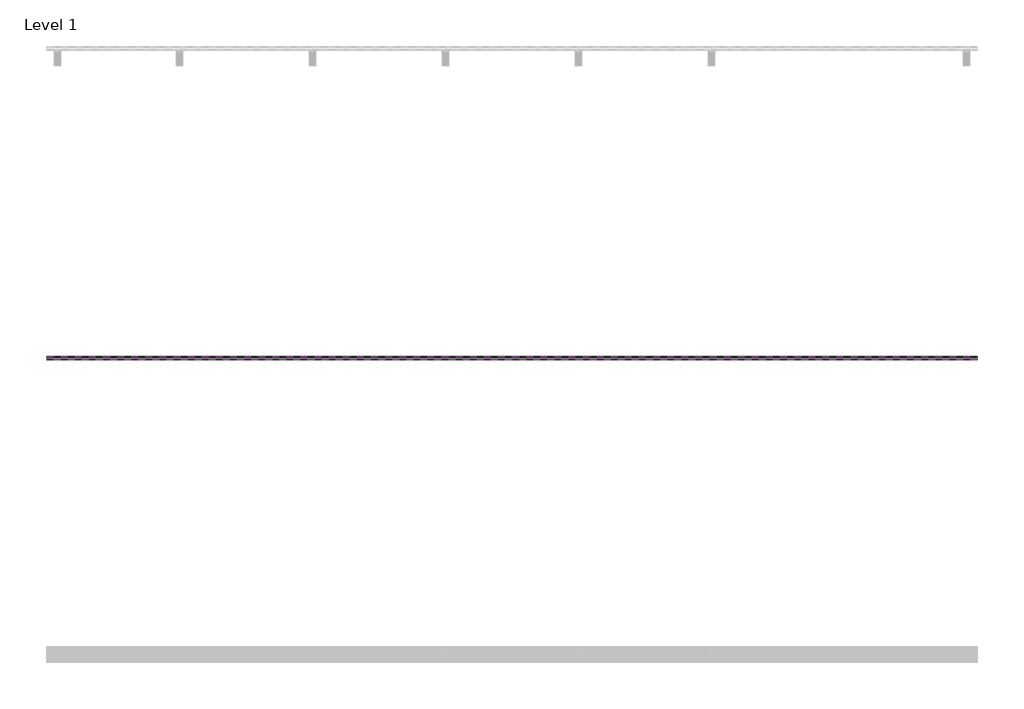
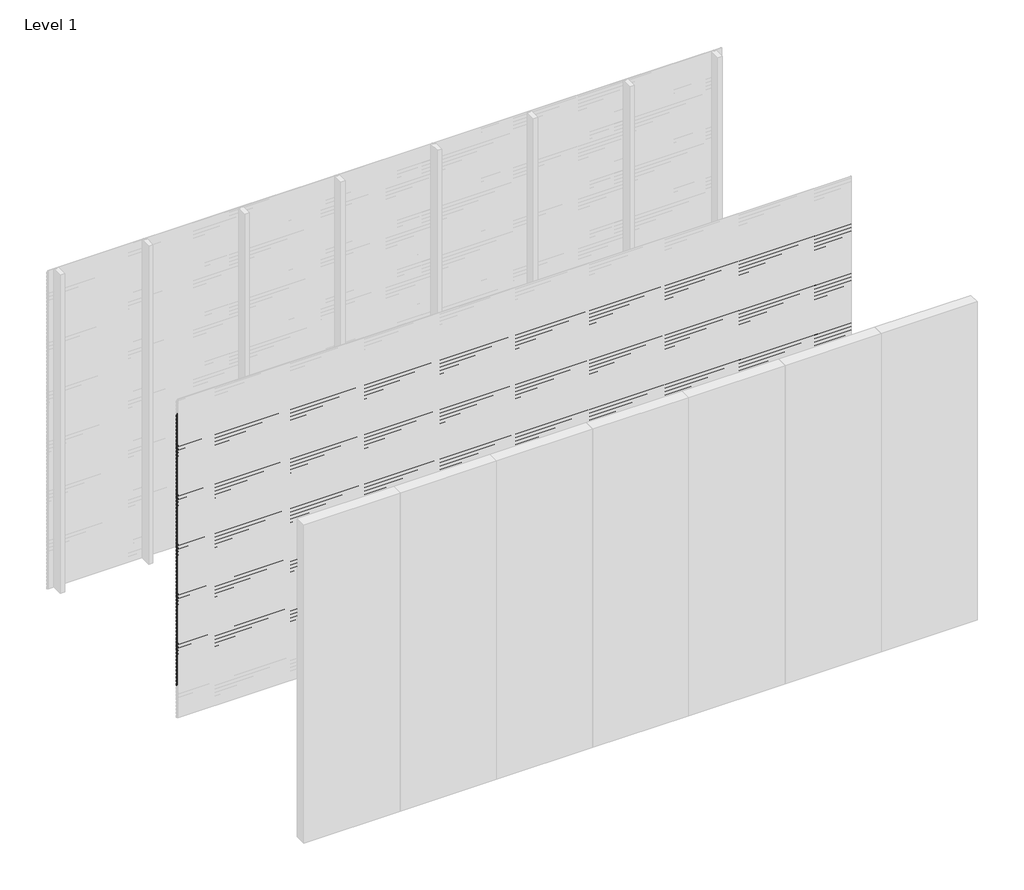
# One storey, part 32 of 96: 77 proxies.
"""IFC4 building model written with IfcOpenShell, lengths in millimetres."""

from ifc_helpers import new_model, si_unit, frame, origin, place, context, project, spatial, polyline, outline, extrude, element, save

model = new_model("IFC4")

# Units and contexts
model_context = context("Model", 3, world=origin())
ifc_project = project(units=[si_unit("LENGTHUNIT", "METRE", prefix="MILLI")], contexts=[model_context])

# Site, building, storey
site = spatial("IfcSite", under=ifc_project)
building = spatial("IfcBuilding", under=site)
storey = spatial("IfcBuildingStorey", under=building, Name="Level 1", Elevation=0.0)

# Proxies
placement = place(None, origin())
element("IfcBuildingElementProxy", 1, Name="Wall Sweeps", at=placement, inside=storey, context=model_context, shape_type="SweptSolid", body=[
    extrude(outline(polyline([(-37977.6, 2838.5655033), (-37977.6, 2824.2779188), (-37982.4114965, 2821.5), (-37982.4114965, 2822.7701706), (-37978.85, 2824.8264016), (-37978.85, 2837.8437382), (-37998.0, 2848.9000799), (-37998.0, 2863.8), (-37996.75, 2863.8), (-37996.75, 2849.6217609), (-37977.6, 2838.5655033)])), frame((0.0, 0.0, 0.0), z_axis=(1.0, 0.0, 0.0), x_axis=(0.0, 1.0, 0.0)), (0.0, 0.0, 1.0), 6000.0),
])
element("IfcBuildingElementProxy", 2, Name="Wall Sweeps", at=placement, inside=storey, context=model_context, shape_type="SweptSolid", body=[
    extrude(outline(polyline([(-37977.6, 2805.2655033), (-37977.6, 2790.9779188), (-37982.4114965, 2788.2), (-37982.4114965, 2789.4701706), (-37978.85, 2791.5264016), (-37978.85, 2804.5437382), (-37998.0, 2815.6000799), (-37998.0, 2830.5), (-37996.75, 2830.5), (-37996.75, 2816.3217609), (-37977.6, 2805.2655033)])), frame((0.0, 0.0, 0.0), z_axis=(1.0, 0.0, 0.0), x_axis=(0.0, 1.0, 0.0)), (0.0, 0.0, 1.0), 6000.0),
])
element("IfcBuildingElementProxy", 3, Name="Wall Sweeps", at=placement, inside=storey, context=model_context, shape_type="SweptSolid", body=[
    extrude(outline(polyline([(-37977.6, 2771.9655033), (-37977.6, 2757.6779188), (-37982.4114965, 2754.9), (-37982.4114965, 2756.1701706), (-37978.85, 2758.2264016), (-37978.85, 2771.2437382), (-37998.0, 2782.3000799), (-37998.0, 2797.2), (-37996.75, 2797.2), (-37996.75, 2783.0217609), (-37977.6, 2771.9655033)])), frame((0.0, 0.0, 0.0), z_axis=(1.0, 0.0, 0.0), x_axis=(0.0, 1.0, 0.0)), (0.0, 0.0, 1.0), 6000.0),
])
element("IfcBuildingElementProxy", 4, Name="Wall Sweeps", at=placement, inside=storey, context=model_context, shape_type="SweptSolid", body=[
    extrude(outline(polyline([(-37977.6, 2738.6655033), (-37977.6, 2724.3779188), (-37982.4114965, 2721.6), (-37982.4114965, 2722.8701706), (-37978.85, 2724.9264016), (-37978.85, 2737.9437382), (-37998.0, 2749.0000799), (-37998.0, 2763.9), (-37996.75, 2763.9), (-37996.75, 2749.7217609), (-37977.6, 2738.6655033)])), frame((0.0, 0.0, 0.0), z_axis=(1.0, 0.0, 0.0), x_axis=(0.0, 1.0, 0.0)), (0.0, 0.0, 1.0), 6000.0),
])
element("IfcBuildingElementProxy", 5, Name="Wall Sweeps", at=placement, inside=storey, context=model_context, shape_type="SweptSolid", body=[
    extrude(outline(polyline([(-37977.6, 2705.3655033), (-37977.6, 2691.0779188), (-37982.4114965, 2688.3), (-37982.4114965, 2689.5701706), (-37978.85, 2691.6264016), (-37978.85, 2704.6437382), (-37998.0, 2715.7000799), (-37998.0, 2730.6), (-37996.75, 2730.6), (-37996.75, 2716.4217609), (-37977.6, 2705.3655033)])), frame((0.0, 0.0, 0.0), z_axis=(1.0, 0.0, 0.0), x_axis=(0.0, 1.0, 0.0)), (0.0, 0.0, 1.0), 6000.0),
])
element("IfcBuildingElementProxy", 6, Name="Wall Sweeps", at=placement, inside=storey, context=model_context, shape_type="SweptSolid", body=[
    extrude(outline(polyline([(-37977.6, 2672.0655033), (-37977.6, 2657.7779188), (-37982.4114965, 2655.0), (-37982.4114965, 2656.2701706), (-37978.85, 2658.3264016), (-37978.85, 2671.3437382), (-37998.0, 2682.4000799), (-37998.0, 2697.3), (-37996.75, 2697.3), (-37996.75, 2683.1217609), (-37977.6, 2672.0655033)])), frame((0.0, 0.0, 0.0), z_axis=(1.0, 0.0, 0.0), x_axis=(0.0, 1.0, 0.0)), (0.0, 0.0, 1.0), 6000.0),
])
element("IfcBuildingElementProxy", 7, Name="Wall Sweeps", at=placement, inside=storey, context=model_context, shape_type="SweptSolid", body=[
    extrude(outline(polyline([(-37977.6, 2638.7655033), (-37977.6, 2624.4779188), (-37982.4114965, 2621.7), (-37982.4114965, 2622.9701706), (-37978.85, 2625.0264016), (-37978.85, 2638.0437382), (-37998.0, 2649.1000799), (-37998.0, 2664.0), (-37996.75, 2664.0), (-37996.75, 2649.8217609), (-37977.6, 2638.7655033)])), frame((0.0, 0.0, 0.0), z_axis=(1.0, 0.0, 0.0), x_axis=(0.0, 1.0, 0.0)), (0.0, 0.0, 1.0), 6000.0),
])
element("IfcBuildingElementProxy", 8, Name="Wall Sweeps", at=placement, inside=storey, context=model_context, shape_type="SweptSolid", body=[
    extrude(outline(polyline([(-37977.6, 2605.4655033), (-37977.6, 2591.1779188), (-37982.4114965, 2588.4), (-37982.4114965, 2589.6701706), (-37978.85, 2591.7264016), (-37978.85, 2604.7437382), (-37998.0, 2615.8000799), (-37998.0, 2630.7), (-37996.75, 2630.7), (-37996.75, 2616.5217609), (-37977.6, 2605.4655033)])), frame((0.0, 0.0, 0.0), z_axis=(1.0, 0.0, 0.0), x_axis=(0.0, 1.0, 0.0)), (0.0, 0.0, 1.0), 6000.0),
])
element("IfcBuildingElementProxy", 9, Name="Wall Sweeps", at=placement, inside=storey, context=model_context, shape_type="SweptSolid", body=[
    extrude(outline(polyline([(-37977.6, 2572.1655033), (-37977.6, 2557.8779188), (-37982.4114965, 2555.1), (-37982.4114965, 2556.3701706), (-37978.85, 2558.4264016), (-37978.85, 2571.4437382), (-37998.0, 2582.5000799), (-37998.0, 2597.4), (-37996.75, 2597.4), (-37996.75, 2583.2217609), (-37977.6, 2572.1655033)])), frame((0.0, 0.0, 0.0), z_axis=(1.0, 0.0, 0.0), x_axis=(0.0, 1.0, 0.0)), (0.0, 0.0, 1.0), 6000.0),
])
element("IfcBuildingElementProxy", 10, Name="Wall Sweeps", at=placement, inside=storey, context=model_context, shape_type="SweptSolid", body=[
    extrude(outline(polyline([(-37977.6, 2538.8655033), (-37977.6, 2524.5779188), (-37982.4114965, 2521.8), (-37982.4114965, 2523.0701706), (-37978.85, 2525.1264016), (-37978.85, 2538.1437382), (-37998.0, 2549.2000799), (-37998.0, 2564.1), (-37996.75, 2564.1), (-37996.75, 2549.9217609), (-37977.6, 2538.8655033)])), frame((0.0, 0.0, 0.0), z_axis=(1.0, 0.0, 0.0), x_axis=(0.0, 1.0, 0.0)), (0.0, 0.0, 1.0), 6000.0),
])
element("IfcBuildingElementProxy", 11, Name="Wall Sweeps", at=placement, inside=storey, context=model_context, shape_type="SweptSolid", body=[
    extrude(outline(polyline([(-37977.6, 2505.5655033), (-37977.6, 2491.2779188), (-37982.4114965, 2488.5), (-37982.4114965, 2489.7701706), (-37978.85, 2491.8264016), (-37978.85, 2504.8437382), (-37998.0, 2515.9000799), (-37998.0, 2530.8), (-37996.75, 2530.8), (-37996.75, 2516.6217609), (-37977.6, 2505.5655033)])), frame((0.0, 0.0, 0.0), z_axis=(1.0, 0.0, 0.0), x_axis=(0.0, 1.0, 0.0)), (0.0, 0.0, 1.0), 6000.0),
])
element("IfcBuildingElementProxy", 12, Name="Wall Sweeps", at=placement, inside=storey, context=model_context, shape_type="SweptSolid", body=[
    extrude(outline(polyline([(-37977.6, 2472.2655033), (-37977.6, 2457.9779188), (-37982.4114965, 2455.2), (-37982.4114965, 2456.4701706), (-37978.85, 2458.5264016), (-37978.85, 2471.5437382), (-37998.0, 2482.6000799), (-37998.0, 2497.5), (-37996.75, 2497.5), (-37996.75, 2483.3217609), (-37977.6, 2472.2655033)])), frame((0.0, 0.0, 0.0), z_axis=(1.0, 0.0, 0.0), x_axis=(0.0, 1.0, 0.0)), (0.0, 0.0, 1.0), 6000.0),
])
element("IfcBuildingElementProxy", 13, Name="Wall Sweeps", at=placement, inside=storey, context=model_context, shape_type="SweptSolid", body=[
    extrude(outline(polyline([(-37977.6, 2438.9655033), (-37977.6, 2424.6779188), (-37982.4114965, 2421.9), (-37982.4114965, 2423.1701706), (-37978.85, 2425.2264016), (-37978.85, 2438.2437382), (-37998.0, 2449.3000799), (-37998.0, 2464.2), (-37996.75, 2464.2), (-37996.75, 2450.0217609), (-37977.6, 2438.9655033)])), frame((0.0, 0.0, 0.0), z_axis=(1.0, 0.0, 0.0), x_axis=(0.0, 1.0, 0.0)), (0.0, 0.0, 1.0), 6000.0),
])
element("IfcBuildingElementProxy", 14, Name="Wall Sweeps", at=placement, inside=storey, context=model_context, shape_type="SweptSolid", body=[
    extrude(outline(polyline([(-37977.6, 2405.6655033), (-37977.6, 2391.3779188), (-37982.4114965, 2388.6), (-37982.4114965, 2389.8701706), (-37978.85, 2391.9264016), (-37978.85, 2404.9437382), (-37998.0, 2416.0000799), (-37998.0, 2430.9), (-37996.75, 2430.9), (-37996.75, 2416.7217609), (-37977.6, 2405.6655033)])), frame((0.0, 0.0, 0.0), z_axis=(1.0, 0.0, 0.0), x_axis=(0.0, 1.0, 0.0)), (0.0, 0.0, 1.0), 6000.0),
])
element("IfcBuildingElementProxy", 15, Name="Wall Sweeps", at=placement, inside=storey, context=model_context, shape_type="SweptSolid", body=[
    extrude(outline(polyline([(-37977.6, 2372.3655033), (-37977.6, 2358.0779188), (-37982.4114965, 2355.3), (-37982.4114965, 2356.5701706), (-37978.85, 2358.6264016), (-37978.85, 2371.6437382), (-37998.0, 2382.7000799), (-37998.0, 2397.6), (-37996.75, 2397.6), (-37996.75, 2383.4217609), (-37977.6, 2372.3655033)])), frame((0.0, 0.0, 0.0), z_axis=(1.0, 0.0, 0.0), x_axis=(0.0, 1.0, 0.0)), (0.0, 0.0, 1.0), 6000.0),
])
element("IfcBuildingElementProxy", 16, Name="Wall Sweeps", at=placement, inside=storey, context=model_context, shape_type="SweptSolid", body=[
    extrude(outline(polyline([(-37977.6, 2339.0655033), (-37977.6, 2324.7779188), (-37982.4114965, 2322.0), (-37982.4114965, 2323.2701706), (-37978.85, 2325.3264016), (-37978.85, 2338.3437382), (-37998.0, 2349.4000799), (-37998.0, 2364.3), (-37996.75, 2364.3), (-37996.75, 2350.1217609), (-37977.6, 2339.0655033)])), frame((0.0, 0.0, 0.0), z_axis=(1.0, 0.0, 0.0), x_axis=(0.0, 1.0, 0.0)), (0.0, 0.0, 1.0), 6000.0),
])
element("IfcBuildingElementProxy", 17, Name="Wall Sweeps", at=placement, inside=storey, context=model_context, shape_type="SweptSolid", body=[
    extrude(outline(polyline([(-37977.6, 2305.7655033), (-37977.6, 2291.4779188), (-37982.4114965, 2288.7), (-37982.4114965, 2289.9701706), (-37978.85, 2292.0264016), (-37978.85, 2305.0437382), (-37998.0, 2316.1000799), (-37998.0, 2331.0), (-37996.75, 2331.0), (-37996.75, 2316.8217609), (-37977.6, 2305.7655033)])), frame((0.0, 0.0, 0.0), z_axis=(1.0, 0.0, 0.0), x_axis=(0.0, 1.0, 0.0)), (0.0, 0.0, 1.0), 6000.0),
])
element("IfcBuildingElementProxy", 18, Name="Wall Sweeps", at=placement, inside=storey, context=model_context, shape_type="SweptSolid", body=[
    extrude(outline(polyline([(-37977.6, 2272.4655033), (-37977.6, 2258.1779188), (-37982.4114965, 2255.4), (-37982.4114965, 2256.6701706), (-37978.85, 2258.7264016), (-37978.85, 2271.7437382), (-37998.0, 2282.8000799), (-37998.0, 2297.7), (-37996.75, 2297.7), (-37996.75, 2283.5217609), (-37977.6, 2272.4655033)])), frame((0.0, 0.0, 0.0), z_axis=(1.0, 0.0, 0.0), x_axis=(0.0, 1.0, 0.0)), (0.0, 0.0, 1.0), 6000.0),
])
element("IfcBuildingElementProxy", 19, Name="Wall Sweeps", at=placement, inside=storey, context=model_context, shape_type="SweptSolid", body=[
    extrude(outline(polyline([(-37977.6, 2239.1655033), (-37977.6, 2224.8779188), (-37982.4114965, 2222.1), (-37982.4114965, 2223.3701706), (-37978.85, 2225.4264016), (-37978.85, 2238.4437382), (-37998.0, 2249.5000799), (-37998.0, 2264.4), (-37996.75, 2264.4), (-37996.75, 2250.2217609), (-37977.6, 2239.1655033)])), frame((0.0, 0.0, 0.0), z_axis=(1.0, 0.0, 0.0), x_axis=(0.0, 1.0, 0.0)), (0.0, 0.0, 1.0), 6000.0),
])
element("IfcBuildingElementProxy", 20, Name="Wall Sweeps", at=placement, inside=storey, context=model_context, shape_type="SweptSolid", body=[
    extrude(outline(polyline([(-37977.6, 2205.8655033), (-37977.6, 2191.5779188), (-37982.4114965, 2188.8), (-37982.4114965, 2190.0701706), (-37978.85, 2192.1264016), (-37978.85, 2205.1437382), (-37998.0, 2216.2000799), (-37998.0, 2231.1), (-37996.75, 2231.1), (-37996.75, 2216.9217609), (-37977.6, 2205.8655033)])), frame((0.0, 0.0, 0.0), z_axis=(1.0, 0.0, 0.0), x_axis=(0.0, 1.0, 0.0)), (0.0, 0.0, 1.0), 6000.0),
])
element("IfcBuildingElementProxy", 21, Name="Wall Sweeps", at=placement, inside=storey, context=model_context, shape_type="SweptSolid", body=[
    extrude(outline(polyline([(-37977.6, 2172.5655033), (-37977.6, 2158.2779188), (-37982.4114965, 2155.5), (-37982.4114965, 2156.7701706), (-37978.85, 2158.8264016), (-37978.85, 2171.8437382), (-37998.0, 2182.9000799), (-37998.0, 2197.8), (-37996.75, 2197.8), (-37996.75, 2183.6217609), (-37977.6, 2172.5655033)])), frame((0.0, 0.0, 0.0), z_axis=(1.0, 0.0, 0.0), x_axis=(0.0, 1.0, 0.0)), (0.0, 0.0, 1.0), 6000.0),
])
element("IfcBuildingElementProxy", 22, Name="Wall Sweeps", at=placement, inside=storey, context=model_context, shape_type="SweptSolid", body=[
    extrude(outline(polyline([(-37977.6, 2139.2655033), (-37977.6, 2124.9779188), (-37982.4114965, 2122.2), (-37982.4114965, 2123.4701706), (-37978.85, 2125.5264016), (-37978.85, 2138.5437382), (-37998.0, 2149.6000799), (-37998.0, 2164.5), (-37996.75, 2164.5), (-37996.75, 2150.3217609), (-37977.6, 2139.2655033)])), frame((0.0, 0.0, 0.0), z_axis=(1.0, 0.0, 0.0), x_axis=(0.0, 1.0, 0.0)), (0.0, 0.0, 1.0), 6000.0),
])
element("IfcBuildingElementProxy", 23, Name="Wall Sweeps", at=placement, inside=storey, context=model_context, shape_type="SweptSolid", body=[
    extrude(outline(polyline([(-37977.6, 2105.9655033), (-37977.6, 2091.6779188), (-37982.4114965, 2088.9), (-37982.4114965, 2090.1701706), (-37978.85, 2092.2264016), (-37978.85, 2105.2437382), (-37998.0, 2116.3000799), (-37998.0, 2131.2), (-37996.75, 2131.2), (-37996.75, 2117.0217609), (-37977.6, 2105.9655033)])), frame((0.0, 0.0, 0.0), z_axis=(1.0, 0.0, 0.0), x_axis=(0.0, 1.0, 0.0)), (0.0, 0.0, 1.0), 6000.0),
])
element("IfcBuildingElementProxy", 24, Name="Wall Sweeps", at=placement, inside=storey, context=model_context, shape_type="SweptSolid", body=[
    extrude(outline(polyline([(-37977.6, 2072.6655033), (-37977.6, 2058.3779188), (-37982.4114965, 2055.6), (-37982.4114965, 2056.8701706), (-37978.85, 2058.9264016), (-37978.85, 2071.9437382), (-37998.0, 2083.0000799), (-37998.0, 2097.9), (-37996.75, 2097.9), (-37996.75, 2083.7217609), (-37977.6, 2072.6655033)])), frame((0.0, 0.0, 0.0), z_axis=(1.0, 0.0, 0.0), x_axis=(0.0, 1.0, 0.0)), (0.0, 0.0, 1.0), 6000.0),
])
element("IfcBuildingElementProxy", 25, Name="Wall Sweeps", at=placement, inside=storey, context=model_context, shape_type="SweptSolid", body=[
    extrude(outline(polyline([(-37977.6, 2039.3655033), (-37977.6, 2025.0779188), (-37982.4114965, 2022.3), (-37982.4114965, 2023.5701706), (-37978.85, 2025.6264016), (-37978.85, 2038.6437382), (-37998.0, 2049.7000799), (-37998.0, 2064.6), (-37996.75, 2064.6), (-37996.75, 2050.4217609), (-37977.6, 2039.3655033)])), frame((0.0, 0.0, 0.0), z_axis=(1.0, 0.0, 0.0), x_axis=(0.0, 1.0, 0.0)), (0.0, 0.0, 1.0), 6000.0),
])
element("IfcBuildingElementProxy", 26, Name="Wall Sweeps", at=placement, inside=storey, context=model_context, shape_type="SweptSolid", body=[
    extrude(outline(polyline([(-37977.6, 2006.0655033), (-37977.6, 1991.7779188), (-37982.4114965, 1989.0), (-37982.4114965, 1990.2701706), (-37978.85, 1992.3264016), (-37978.85, 2005.3437382), (-37998.0, 2016.4000799), (-37998.0, 2031.3), (-37996.75, 2031.3), (-37996.75, 2017.1217609), (-37977.6, 2006.0655033)])), frame((0.0, 0.0, 0.0), z_axis=(1.0, 0.0, 0.0), x_axis=(0.0, 1.0, 0.0)), (0.0, 0.0, 1.0), 6000.0),
])
element("IfcBuildingElementProxy", 27, Name="Wall Sweeps", at=placement, inside=storey, context=model_context, shape_type="SweptSolid", body=[
    extrude(outline(polyline([(-37977.6, 1972.7655033), (-37977.6, 1958.4779188), (-37982.4114965, 1955.7), (-37982.4114965, 1956.9701706), (-37978.85, 1959.0264016), (-37978.85, 1972.0437382), (-37998.0, 1983.1000799), (-37998.0, 1998.0), (-37996.75, 1998.0), (-37996.75, 1983.8217609), (-37977.6, 1972.7655033)])), frame((0.0, 0.0, 0.0), z_axis=(1.0, 0.0, 0.0), x_axis=(0.0, 1.0, 0.0)), (0.0, 0.0, 1.0), 6000.0),
])
element("IfcBuildingElementProxy", 28, Name="Wall Sweeps", at=placement, inside=storey, context=model_context, shape_type="SweptSolid", body=[
    extrude(outline(polyline([(-37977.6, 1939.4655033), (-37977.6, 1925.1779188), (-37982.4114965, 1922.4), (-37982.4114965, 1923.6701706), (-37978.85, 1925.7264016), (-37978.85, 1938.7437382), (-37998.0, 1949.8000799), (-37998.0, 1964.7), (-37996.75, 1964.7), (-37996.75, 1950.5217609), (-37977.6, 1939.4655033)])), frame((0.0, 0.0, 0.0), z_axis=(1.0, 0.0, 0.0), x_axis=(0.0, 1.0, 0.0)), (0.0, 0.0, 1.0), 6000.0),
])
element("IfcBuildingElementProxy", 29, Name="Wall Sweeps", at=placement, inside=storey, context=model_context, shape_type="SweptSolid", body=[
    extrude(outline(polyline([(-37977.6, 1906.1655033), (-37977.6, 1891.8779188), (-37982.4114965, 1889.1), (-37982.4114965, 1890.3701706), (-37978.85, 1892.4264016), (-37978.85, 1905.4437382), (-37998.0, 1916.5000799), (-37998.0, 1931.4), (-37996.75, 1931.4), (-37996.75, 1917.2217609), (-37977.6, 1906.1655033)])), frame((0.0, 0.0, 0.0), z_axis=(1.0, 0.0, 0.0), x_axis=(0.0, 1.0, 0.0)), (0.0, 0.0, 1.0), 6000.0),
])
element("IfcBuildingElementProxy", 30, Name="Wall Sweeps", at=placement, inside=storey, context=model_context, shape_type="SweptSolid", body=[
    extrude(outline(polyline([(-37977.6, 1872.8655033), (-37977.6, 1858.5779188), (-37982.4114965, 1855.8), (-37982.4114965, 1857.0701706), (-37978.85, 1859.1264016), (-37978.85, 1872.1437382), (-37998.0, 1883.2000799), (-37998.0, 1898.1), (-37996.75, 1898.1), (-37996.75, 1883.9217609), (-37977.6, 1872.8655033)])), frame((0.0, 0.0, 0.0), z_axis=(1.0, 0.0, 0.0), x_axis=(0.0, 1.0, 0.0)), (0.0, 0.0, 1.0), 6000.0),
])
element("IfcBuildingElementProxy", 31, Name="Wall Sweeps", at=placement, inside=storey, context=model_context, shape_type="SweptSolid", body=[
    extrude(outline(polyline([(-37977.6, 1839.5655033), (-37977.6, 1825.2779188), (-37982.4114965, 1822.5), (-37982.4114965, 1823.7701706), (-37978.85, 1825.8264016), (-37978.85, 1838.8437382), (-37998.0, 1849.9000799), (-37998.0, 1864.8), (-37996.75, 1864.8), (-37996.75, 1850.6217609), (-37977.6, 1839.5655033)])), frame((0.0, 0.0, 0.0), z_axis=(1.0, 0.0, 0.0), x_axis=(0.0, 1.0, 0.0)), (0.0, 0.0, 1.0), 6000.0),
])
element("IfcBuildingElementProxy", 32, Name="Wall Sweeps", at=placement, inside=storey, context=model_context, shape_type="SweptSolid", body=[
    extrude(outline(polyline([(-37977.6, 1806.2655033), (-37977.6, 1791.9779188), (-37982.4114965, 1789.2), (-37982.4114965, 1790.4701706), (-37978.85, 1792.5264016), (-37978.85, 1805.5437382), (-37998.0, 1816.6000799), (-37998.0, 1831.5), (-37996.75, 1831.5), (-37996.75, 1817.3217609), (-37977.6, 1806.2655033)])), frame((0.0, 0.0, 0.0), z_axis=(1.0, 0.0, 0.0), x_axis=(0.0, 1.0, 0.0)), (0.0, 0.0, 1.0), 6000.0),
])
element("IfcBuildingElementProxy", 33, Name="Wall Sweeps", at=placement, inside=storey, context=model_context, shape_type="SweptSolid", body=[
    extrude(outline(polyline([(-37977.6, 1772.9655033), (-37977.6, 1758.6779188), (-37982.4114965, 1755.9), (-37982.4114965, 1757.1701706), (-37978.85, 1759.2264016), (-37978.85, 1772.2437382), (-37998.0, 1783.3000799), (-37998.0, 1798.2), (-37996.75, 1798.2), (-37996.75, 1784.0217609), (-37977.6, 1772.9655033)])), frame((0.0, 0.0, 0.0), z_axis=(1.0, 0.0, 0.0), x_axis=(0.0, 1.0, 0.0)), (0.0, 0.0, 1.0), 6000.0),
])
element("IfcBuildingElementProxy", 34, Name="Wall Sweeps", at=placement, inside=storey, context=model_context, shape_type="SweptSolid", body=[
    extrude(outline(polyline([(-37977.6, 1739.6655033), (-37977.6, 1725.3779188), (-37982.4114965, 1722.6), (-37982.4114965, 1723.8701706), (-37978.85, 1725.9264016), (-37978.85, 1738.9437382), (-37998.0, 1750.0000799), (-37998.0, 1764.9), (-37996.75, 1764.9), (-37996.75, 1750.7217609), (-37977.6, 1739.6655033)])), frame((0.0, 0.0, 0.0), z_axis=(1.0, 0.0, 0.0), x_axis=(0.0, 1.0, 0.0)), (0.0, 0.0, 1.0), 6000.0),
])
element("IfcBuildingElementProxy", 35, Name="Wall Sweeps", at=placement, inside=storey, context=model_context, shape_type="SweptSolid", body=[
    extrude(outline(polyline([(-37977.6, 1706.3655033), (-37977.6, 1692.0779188), (-37982.4114965, 1689.3), (-37982.4114965, 1690.5701706), (-37978.85, 1692.6264016), (-37978.85, 1705.6437382), (-37998.0, 1716.7000799), (-37998.0, 1731.6), (-37996.75, 1731.6), (-37996.75, 1717.4217609), (-37977.6, 1706.3655033)])), frame((0.0, 0.0, 0.0), z_axis=(1.0, 0.0, 0.0), x_axis=(0.0, 1.0, 0.0)), (0.0, 0.0, 1.0), 6000.0),
])
element("IfcBuildingElementProxy", 36, Name="Wall Sweeps", at=placement, inside=storey, context=model_context, shape_type="SweptSolid", body=[
    extrude(outline(polyline([(-37977.6, 1673.0655033), (-37977.6, 1658.7779188), (-37982.4114965, 1656.0), (-37982.4114965, 1657.2701706), (-37978.85, 1659.3264016), (-37978.85, 1672.3437382), (-37998.0, 1683.4000799), (-37998.0, 1698.3), (-37996.75, 1698.3), (-37996.75, 1684.1217609), (-37977.6, 1673.0655033)])), frame((0.0, 0.0, 0.0), z_axis=(1.0, 0.0, 0.0), x_axis=(0.0, 1.0, 0.0)), (0.0, 0.0, 1.0), 6000.0),
])
element("IfcBuildingElementProxy", 37, Name="Wall Sweeps", at=placement, inside=storey, context=model_context, shape_type="SweptSolid", body=[
    extrude(outline(polyline([(-37977.6, 1639.7655033), (-37977.6, 1625.4779188), (-37982.4114965, 1622.7), (-37982.4114965, 1623.9701706), (-37978.85, 1626.0264016), (-37978.85, 1639.0437382), (-37998.0, 1650.1000799), (-37998.0, 1665.0), (-37996.75, 1665.0), (-37996.75, 1650.8217609), (-37977.6, 1639.7655033)])), frame((0.0, 0.0, 0.0), z_axis=(1.0, 0.0, 0.0), x_axis=(0.0, 1.0, 0.0)), (0.0, 0.0, 1.0), 6000.0),
])
element("IfcBuildingElementProxy", 38, Name="Wall Sweeps", at=placement, inside=storey, context=model_context, shape_type="SweptSolid", body=[
    extrude(outline(polyline([(-37977.6, 1606.4655033), (-37977.6, 1592.1779188), (-37982.4114965, 1589.4), (-37982.4114965, 1590.6701706), (-37978.85, 1592.7264016), (-37978.85, 1605.7437382), (-37998.0, 1616.8000799), (-37998.0, 1631.7), (-37996.75, 1631.7), (-37996.75, 1617.5217609), (-37977.6, 1606.4655033)])), frame((0.0, 0.0, 0.0), z_axis=(1.0, 0.0, 0.0), x_axis=(0.0, 1.0, 0.0)), (0.0, 0.0, 1.0), 6000.0),
])
element("IfcBuildingElementProxy", 39, Name="Wall Sweeps", at=placement, inside=storey, context=model_context, shape_type="SweptSolid", body=[
    extrude(outline(polyline([(-37977.6, 1573.1655033), (-37977.6, 1558.8779188), (-37982.4114965, 1556.1), (-37982.4114965, 1557.3701706), (-37978.85, 1559.4264016), (-37978.85, 1572.4437382), (-37998.0, 1583.5000799), (-37998.0, 1598.4), (-37996.75, 1598.4), (-37996.75, 1584.2217609), (-37977.6, 1573.1655033)])), frame((0.0, 0.0, 0.0), z_axis=(1.0, 0.0, 0.0), x_axis=(0.0, 1.0, 0.0)), (0.0, 0.0, 1.0), 6000.0),
])
element("IfcBuildingElementProxy", 40, Name="Wall Sweeps", at=placement, inside=storey, context=model_context, shape_type="SweptSolid", body=[
    extrude(outline(polyline([(-37977.6, 1539.8655033), (-37977.6, 1525.5779188), (-37982.4114965, 1522.8), (-37982.4114965, 1524.0701706), (-37978.85, 1526.1264016), (-37978.85, 1539.1437382), (-37998.0, 1550.2000799), (-37998.0, 1565.1), (-37996.75, 1565.1), (-37996.75, 1550.9217609), (-37977.6, 1539.8655033)])), frame((0.0, 0.0, 0.0), z_axis=(1.0, 0.0, 0.0), x_axis=(0.0, 1.0, 0.0)), (0.0, 0.0, 1.0), 6000.0),
])
element("IfcBuildingElementProxy", 41, Name="Wall Sweeps", at=placement, inside=storey, context=model_context, shape_type="SweptSolid", body=[
    extrude(outline(polyline([(-37977.6, 1506.5655033), (-37977.6, 1492.2779188), (-37982.4114965, 1489.5), (-37982.4114965, 1490.7701706), (-37978.85, 1492.8264016), (-37978.85, 1505.8437382), (-37998.0, 1516.9000799), (-37998.0, 1531.8), (-37996.75, 1531.8), (-37996.75, 1517.6217609), (-37977.6, 1506.5655033)])), frame((0.0, 0.0, 0.0), z_axis=(1.0, 0.0, 0.0), x_axis=(0.0, 1.0, 0.0)), (0.0, 0.0, 1.0), 6000.0),
])
element("IfcBuildingElementProxy", 42, Name="Wall Sweeps", at=placement, inside=storey, context=model_context, shape_type="SweptSolid", body=[
    extrude(outline(polyline([(-37977.6, 1473.2655033), (-37977.6, 1458.9779188), (-37982.4114965, 1456.2), (-37982.4114965, 1457.4701706), (-37978.85, 1459.5264016), (-37978.85, 1472.5437382), (-37998.0, 1483.6000799), (-37998.0, 1498.5), (-37996.75, 1498.5), (-37996.75, 1484.3217609), (-37977.6, 1473.2655033)])), frame((0.0, 0.0, 0.0), z_axis=(1.0, 0.0, 0.0), x_axis=(0.0, 1.0, 0.0)), (0.0, 0.0, 1.0), 6000.0),
])
element("IfcBuildingElementProxy", 43, Name="Wall Sweeps", at=placement, inside=storey, context=model_context, shape_type="SweptSolid", body=[
    extrude(outline(polyline([(-37977.6, 1439.9655033), (-37977.6, 1425.6779188), (-37982.4114965, 1422.9), (-37982.4114965, 1424.1701706), (-37978.85, 1426.2264016), (-37978.85, 1439.2437382), (-37998.0, 1450.3000799), (-37998.0, 1465.2), (-37996.75, 1465.2), (-37996.75, 1451.0217609), (-37977.6, 1439.9655033)])), frame((0.0, 0.0, 0.0), z_axis=(1.0, 0.0, 0.0), x_axis=(0.0, 1.0, 0.0)), (0.0, 0.0, 1.0), 6000.0),
])
element("IfcBuildingElementProxy", 44, Name="Wall Sweeps", at=placement, inside=storey, context=model_context, shape_type="SweptSolid", body=[
    extrude(outline(polyline([(-37977.6, 1406.6655033), (-37977.6, 1392.3779188), (-37982.4114965, 1389.6), (-37982.4114965, 1390.8701706), (-37978.85, 1392.9264016), (-37978.85, 1405.9437382), (-37998.0, 1417.0000799), (-37998.0, 1431.9), (-37996.75, 1431.9), (-37996.75, 1417.7217609), (-37977.6, 1406.6655033)])), frame((0.0, 0.0, 0.0), z_axis=(1.0, 0.0, 0.0), x_axis=(0.0, 1.0, 0.0)), (0.0, 0.0, 1.0), 6000.0),
])
element("IfcBuildingElementProxy", 45, Name="Wall Sweeps", at=placement, inside=storey, context=model_context, shape_type="SweptSolid", body=[
    extrude(outline(polyline([(-37977.6, 1373.3655033), (-37977.6, 1359.0779188), (-37982.4114965, 1356.3), (-37982.4114965, 1357.5701706), (-37978.85, 1359.6264016), (-37978.85, 1372.6437382), (-37998.0, 1383.7000799), (-37998.0, 1398.6), (-37996.75, 1398.6), (-37996.75, 1384.4217609), (-37977.6, 1373.3655033)])), frame((0.0, 0.0, 0.0), z_axis=(1.0, 0.0, 0.0), x_axis=(0.0, 1.0, 0.0)), (0.0, 0.0, 1.0), 6000.0),
])
element("IfcBuildingElementProxy", 46, Name="Wall Sweeps", at=placement, inside=storey, context=model_context, shape_type="SweptSolid", body=[
    extrude(outline(polyline([(-37977.6, 1340.0655033), (-37977.6, 1325.7779188), (-37982.4114965, 1323.0), (-37982.4114965, 1324.2701706), (-37978.85, 1326.3264016), (-37978.85, 1339.3437382), (-37998.0, 1350.4000799), (-37998.0, 1365.3), (-37996.75, 1365.3), (-37996.75, 1351.1217609), (-37977.6, 1340.0655033)])), frame((0.0, 0.0, 0.0), z_axis=(1.0, 0.0, 0.0), x_axis=(0.0, 1.0, 0.0)), (0.0, 0.0, 1.0), 6000.0),
])
element("IfcBuildingElementProxy", 47, Name="Wall Sweeps", at=placement, inside=storey, context=model_context, shape_type="SweptSolid", body=[
    extrude(outline(polyline([(-37977.6, 1306.7655033), (-37977.6, 1292.4779188), (-37982.4114965, 1289.7), (-37982.4114965, 1290.9701706), (-37978.85, 1293.0264016), (-37978.85, 1306.0437382), (-37998.0, 1317.1000799), (-37998.0, 1332.0), (-37996.75, 1332.0), (-37996.75, 1317.8217609), (-37977.6, 1306.7655033)])), frame((0.0, 0.0, 0.0), z_axis=(1.0, 0.0, 0.0), x_axis=(0.0, 1.0, 0.0)), (0.0, 0.0, 1.0), 6000.0),
])
element("IfcBuildingElementProxy", 48, Name="Wall Sweeps", at=placement, inside=storey, context=model_context, shape_type="SweptSolid", body=[
    extrude(outline(polyline([(-37977.6, 1273.4655033), (-37977.6, 1259.1779188), (-37982.4114965, 1256.4), (-37982.4114965, 1257.6701706), (-37978.85, 1259.7264016), (-37978.85, 1272.7437382), (-37998.0, 1283.8000799), (-37998.0, 1298.7), (-37996.75, 1298.7), (-37996.75, 1284.5217609), (-37977.6, 1273.4655033)])), frame((0.0, 0.0, 0.0), z_axis=(1.0, 0.0, 0.0), x_axis=(0.0, 1.0, 0.0)), (0.0, 0.0, 1.0), 6000.0),
])
element("IfcBuildingElementProxy", 49, Name="Wall Sweeps", at=placement, inside=storey, context=model_context, shape_type="SweptSolid", body=[
    extrude(outline(polyline([(-37977.6, 1240.1655033), (-37977.6, 1225.8779188), (-37982.4114965, 1223.1), (-37982.4114965, 1224.3701706), (-37978.85, 1226.4264016), (-37978.85, 1239.4437382), (-37998.0, 1250.5000799), (-37998.0, 1265.4), (-37996.75, 1265.4), (-37996.75, 1251.2217609), (-37977.6, 1240.1655033)])), frame((0.0, 0.0, 0.0), z_axis=(1.0, 0.0, 0.0), x_axis=(0.0, 1.0, 0.0)), (0.0, 0.0, 1.0), 6000.0),
])
element("IfcBuildingElementProxy", 50, Name="Wall Sweeps", at=placement, inside=storey, context=model_context, shape_type="SweptSolid", body=[
    extrude(outline(polyline([(-37977.6, 1206.8655033), (-37977.6, 1192.5779188), (-37982.4114965, 1189.8), (-37982.4114965, 1191.0701706), (-37978.85, 1193.1264016), (-37978.85, 1206.1437382), (-37998.0, 1217.2000799), (-37998.0, 1232.1), (-37996.75, 1232.1), (-37996.75, 1217.9217609), (-37977.6, 1206.8655033)])), frame((0.0, 0.0, 0.0), z_axis=(1.0, 0.0, 0.0), x_axis=(0.0, 1.0, 0.0)), (0.0, 0.0, 1.0), 6000.0),
])
element("IfcBuildingElementProxy", 51, Name="Wall Sweeps", at=placement, inside=storey, context=model_context, shape_type="SweptSolid", body=[
    extrude(outline(polyline([(-37977.6, 1173.5655033), (-37977.6, 1159.2779188), (-37982.4114965, 1156.5), (-37982.4114965, 1157.7701706), (-37978.85, 1159.8264016), (-37978.85, 1172.8437382), (-37998.0, 1183.9000799), (-37998.0, 1198.8), (-37996.75, 1198.8), (-37996.75, 1184.6217609), (-37977.6, 1173.5655033)])), frame((0.0, 0.0, 0.0), z_axis=(1.0, 0.0, 0.0), x_axis=(0.0, 1.0, 0.0)), (0.0, 0.0, 1.0), 6000.0),
])
element("IfcBuildingElementProxy", 52, Name="Wall Sweeps", at=placement, inside=storey, context=model_context, shape_type="SweptSolid", body=[
    extrude(outline(polyline([(-37977.6, 1140.2655033), (-37977.6, 1125.9779188), (-37982.4114965, 1123.2), (-37982.4114965, 1124.4701706), (-37978.85, 1126.5264016), (-37978.85, 1139.5437382), (-37998.0, 1150.6000799), (-37998.0, 1165.5), (-37996.75, 1165.5), (-37996.75, 1151.3217609), (-37977.6, 1140.2655033)])), frame((0.0, 0.0, 0.0), z_axis=(1.0, 0.0, 0.0), x_axis=(0.0, 1.0, 0.0)), (0.0, 0.0, 1.0), 6000.0),
])
element("IfcBuildingElementProxy", 53, Name="Wall Sweeps", at=placement, inside=storey, context=model_context, shape_type="SweptSolid", body=[
    extrude(outline(polyline([(-37977.6, 1106.9655033), (-37977.6, 1092.6779188), (-37982.4114965, 1089.9), (-37982.4114965, 1091.1701706), (-37978.85, 1093.2264016), (-37978.85, 1106.2437382), (-37998.0, 1117.3000799), (-37998.0, 1132.2), (-37996.75, 1132.2), (-37996.75, 1118.0217609), (-37977.6, 1106.9655033)])), frame((0.0, 0.0, 0.0), z_axis=(1.0, 0.0, 0.0), x_axis=(0.0, 1.0, 0.0)), (0.0, 0.0, 1.0), 6000.0),
])
element("IfcBuildingElementProxy", 54, Name="Wall Sweeps", at=placement, inside=storey, context=model_context, shape_type="SweptSolid", body=[
    extrude(outline(polyline([(-37977.6, 1073.6655033), (-37977.6, 1059.3779188), (-37982.4114965, 1056.6), (-37982.4114965, 1057.8701706), (-37978.85, 1059.9264016), (-37978.85, 1072.9437382), (-37998.0, 1084.0000799), (-37998.0, 1098.9), (-37996.75, 1098.9), (-37996.75, 1084.7217609), (-37977.6, 1073.6655033)])), frame((0.0, 0.0, 0.0), z_axis=(1.0, 0.0, 0.0), x_axis=(0.0, 1.0, 0.0)), (0.0, 0.0, 1.0), 6000.0),
])
element("IfcBuildingElementProxy", 55, Name="Wall Sweeps", at=placement, inside=storey, context=model_context, shape_type="SweptSolid", body=[
    extrude(outline(polyline([(-37977.6, 1040.3655033), (-37977.6, 1026.0779188), (-37982.4114965, 1023.3), (-37982.4114965, 1024.5701706), (-37978.85, 1026.6264016), (-37978.85, 1039.6437382), (-37998.0, 1050.7000799), (-37998.0, 1065.6), (-37996.75, 1065.6), (-37996.75, 1051.4217609), (-37977.6, 1040.3655033)])), frame((0.0, 0.0, 0.0), z_axis=(1.0, 0.0, 0.0), x_axis=(0.0, 1.0, 0.0)), (0.0, 0.0, 1.0), 6000.0),
])
element("IfcBuildingElementProxy", 56, Name="Wall Sweeps", at=placement, inside=storey, context=model_context, shape_type="SweptSolid", body=[
    extrude(outline(polyline([(-37977.6, 1007.0655033), (-37977.6, 992.7779188), (-37982.4114965, 990.0), (-37982.4114965, 991.2701706), (-37978.85, 993.3264016), (-37978.85, 1006.3437382), (-37998.0, 1017.4000799), (-37998.0, 1032.3), (-37996.75, 1032.3), (-37996.75, 1018.1217609), (-37977.6, 1007.0655033)])), frame((0.0, 0.0, 0.0), z_axis=(1.0, 0.0, 0.0), x_axis=(0.0, 1.0, 0.0)), (0.0, 0.0, 1.0), 6000.0),
])
element("IfcBuildingElementProxy", 57, Name="Wall Sweeps", at=placement, inside=storey, context=model_context, shape_type="SweptSolid", body=[
    extrude(outline(polyline([(-37977.6, 973.7655033), (-37977.6, 959.4779188), (-37982.4114965, 956.7), (-37982.4114965, 957.9701706), (-37978.85, 960.0264016), (-37978.85, 973.0437382), (-37998.0, 984.1000799), (-37998.0, 999.0), (-37996.75, 999.0), (-37996.75, 984.8217609), (-37977.6, 973.7655033)])), frame((0.0, 0.0, 0.0), z_axis=(1.0, 0.0, 0.0), x_axis=(0.0, 1.0, 0.0)), (0.0, 0.0, 1.0), 6000.0),
])
element("IfcBuildingElementProxy", 58, Name="Wall Sweeps", at=placement, inside=storey, context=model_context, shape_type="SweptSolid", body=[
    extrude(outline(polyline([(-37977.6, 940.4655033), (-37977.6, 926.1779188), (-37982.4114965, 923.4), (-37982.4114965, 924.6701706), (-37978.85, 926.7264016), (-37978.85, 939.7437382), (-37998.0, 950.8000799), (-37998.0, 965.7), (-37996.75, 965.7), (-37996.75, 951.5217609), (-37977.6, 940.4655033)])), frame((0.0, 0.0, 0.0), z_axis=(1.0, 0.0, 0.0), x_axis=(0.0, 1.0, 0.0)), (0.0, 0.0, 1.0), 6000.0),
])
element("IfcBuildingElementProxy", 59, Name="Wall Sweeps", at=placement, inside=storey, context=model_context, shape_type="SweptSolid", body=[
    extrude(outline(polyline([(-37977.6, 907.1655033), (-37977.6, 892.8779188), (-37982.4114965, 890.1), (-37982.4114965, 891.3701706), (-37978.85, 893.4264016), (-37978.85, 906.4437382), (-37998.0, 917.5000799), (-37998.0, 932.4), (-37996.75, 932.4), (-37996.75, 918.2217609), (-37977.6, 907.1655033)])), frame((0.0, 0.0, 0.0), z_axis=(1.0, 0.0, 0.0), x_axis=(0.0, 1.0, 0.0)), (0.0, 0.0, 1.0), 6000.0),
])
element("IfcBuildingElementProxy", 60, Name="Wall Sweeps", at=placement, inside=storey, context=model_context, shape_type="SweptSolid", body=[
    extrude(outline(polyline([(-37977.6, 873.8655033), (-37977.6, 859.5779188), (-37982.4114965, 856.8), (-37982.4114965, 858.0701706), (-37978.85, 860.1264016), (-37978.85, 873.1437382), (-37998.0, 884.2000799), (-37998.0, 899.1), (-37996.75, 899.1), (-37996.75, 884.9217609), (-37977.6, 873.8655033)])), frame((0.0, 0.0, 0.0), z_axis=(1.0, 0.0, 0.0), x_axis=(0.0, 1.0, 0.0)), (0.0, 0.0, 1.0), 6000.0),
])
element("IfcBuildingElementProxy", 61, Name="Wall Sweeps", at=placement, inside=storey, context=model_context, shape_type="SweptSolid", body=[
    extrude(outline(polyline([(-37977.6, 840.5655033), (-37977.6, 826.2779188), (-37982.4114965, 823.5), (-37982.4114965, 824.7701706), (-37978.85, 826.8264016), (-37978.85, 839.8437382), (-37998.0, 850.9000799), (-37998.0, 865.8), (-37996.75, 865.8), (-37996.75, 851.6217609), (-37977.6, 840.5655033)])), frame((0.0, 0.0, 0.0), z_axis=(1.0, 0.0, 0.0), x_axis=(0.0, 1.0, 0.0)), (0.0, 0.0, 1.0), 6000.0),
])
element("IfcBuildingElementProxy", 62, Name="Wall Sweeps", at=placement, inside=storey, context=model_context, shape_type="SweptSolid", body=[
    extrude(outline(polyline([(-37977.6, 807.2655033), (-37977.6, 792.9779188), (-37982.4114965, 790.2), (-37982.4114965, 791.4701706), (-37978.85, 793.5264016), (-37978.85, 806.5437382), (-37998.0, 817.6000799), (-37998.0, 832.5), (-37996.75, 832.5), (-37996.75, 818.3217609), (-37977.6, 807.2655033)])), frame((0.0, 0.0, 0.0), z_axis=(1.0, 0.0, 0.0), x_axis=(0.0, 1.0, 0.0)), (0.0, 0.0, 1.0), 6000.0),
])
element("IfcBuildingElementProxy", 63, Name="Wall Sweeps", at=placement, inside=storey, context=model_context, shape_type="SweptSolid", body=[
    extrude(outline(polyline([(-37977.6, 773.9655033), (-37977.6, 759.6779188), (-37982.4114965, 756.9), (-37982.4114965, 758.1701706), (-37978.85, 760.2264016), (-37978.85, 773.2437382), (-37998.0, 784.3000799), (-37998.0, 799.2), (-37996.75, 799.2), (-37996.75, 785.0217609), (-37977.6, 773.9655033)])), frame((0.0, 0.0, 0.0), z_axis=(1.0, 0.0, 0.0), x_axis=(0.0, 1.0, 0.0)), (0.0, 0.0, 1.0), 6000.0),
])
element("IfcBuildingElementProxy", 64, Name="Wall Sweeps", at=placement, inside=storey, context=model_context, shape_type="SweptSolid", body=[
    extrude(outline(polyline([(-37977.6, 740.6655033), (-37977.6, 726.3779188), (-37982.4114965, 723.6), (-37982.4114965, 724.8701706), (-37978.85, 726.9264016), (-37978.85, 739.9437382), (-37998.0, 751.0000799), (-37998.0, 765.9), (-37996.75, 765.9), (-37996.75, 751.7217609), (-37977.6, 740.6655033)])), frame((0.0, 0.0, 0.0), z_axis=(1.0, 0.0, 0.0), x_axis=(0.0, 1.0, 0.0)), (0.0, 0.0, 1.0), 6000.0),
])
element("IfcBuildingElementProxy", 65, Name="Wall Sweeps", at=placement, inside=storey, context=model_context, shape_type="SweptSolid", body=[
    extrude(outline(polyline([(-37977.6, 707.3655033), (-37977.6, 693.0779188), (-37982.4114965, 690.3), (-37982.4114965, 691.5701706), (-37978.85, 693.6264016), (-37978.85, 706.6437382), (-37998.0, 717.7000799), (-37998.0, 732.6), (-37996.75, 732.6), (-37996.75, 718.4217609), (-37977.6, 707.3655033)])), frame((0.0, 0.0, 0.0), z_axis=(1.0, 0.0, 0.0), x_axis=(0.0, 1.0, 0.0)), (0.0, 0.0, 1.0), 6000.0),
])
element("IfcBuildingElementProxy", 66, Name="Wall Sweeps", at=placement, inside=storey, context=model_context, shape_type="SweptSolid", body=[
    extrude(outline(polyline([(-37977.6, 674.0655033), (-37977.6, 659.7779188), (-37982.4114965, 657.0), (-37982.4114965, 658.2701706), (-37978.85, 660.3264016), (-37978.85, 673.3437382), (-37998.0, 684.4000799), (-37998.0, 699.3), (-37996.75, 699.3), (-37996.75, 685.1217609), (-37977.6, 674.0655033)])), frame((0.0, 0.0, 0.0), z_axis=(1.0, 0.0, 0.0), x_axis=(0.0, 1.0, 0.0)), (0.0, 0.0, 1.0), 6000.0),
])
element("IfcBuildingElementProxy", 67, Name="Wall Sweeps", at=placement, inside=storey, context=model_context, shape_type="SweptSolid", body=[
    extrude(outline(polyline([(-37977.6, 640.7655033), (-37977.6, 626.4779188), (-37982.4114965, 623.7), (-37982.4114965, 624.9701706), (-37978.85, 627.0264016), (-37978.85, 640.0437382), (-37998.0, 651.1000799), (-37998.0, 666.0), (-37996.75, 666.0), (-37996.75, 651.8217609), (-37977.6, 640.7655033)])), frame((0.0, 0.0, 0.0), z_axis=(1.0, 0.0, 0.0), x_axis=(0.0, 1.0, 0.0)), (0.0, 0.0, 1.0), 6000.0),
])
element("IfcBuildingElementProxy", 68, Name="Wall Sweeps", at=placement, inside=storey, context=model_context, shape_type="SweptSolid", body=[
    extrude(outline(polyline([(-37977.6, 607.4655033), (-37977.6, 593.1779188), (-37982.4114965, 590.4), (-37982.4114965, 591.6701706), (-37978.85, 593.7264016), (-37978.85, 606.7437382), (-37998.0, 617.8000799), (-37998.0, 632.7), (-37996.75, 632.7), (-37996.75, 618.5217609), (-37977.6, 607.4655033)])), frame((0.0, 0.0, 0.0), z_axis=(1.0, 0.0, 0.0), x_axis=(0.0, 1.0, 0.0)), (0.0, 0.0, 1.0), 6000.0),
])
element("IfcBuildingElementProxy", 69, Name="Wall Sweeps", at=placement, inside=storey, context=model_context, shape_type="SweptSolid", body=[
    extrude(outline(polyline([(-37977.6, 574.1655033), (-37977.6, 559.8779188), (-37982.4114965, 557.1), (-37982.4114965, 558.3701706), (-37978.85, 560.4264016), (-37978.85, 573.4437382), (-37998.0, 584.5000799), (-37998.0, 599.4), (-37996.75, 599.4), (-37996.75, 585.2217609), (-37977.6, 574.1655033)])), frame((0.0, 0.0, 0.0), z_axis=(1.0, 0.0, 0.0), x_axis=(0.0, 1.0, 0.0)), (0.0, 0.0, 1.0), 6000.0),
])
element("IfcBuildingElementProxy", 70, Name="Wall Sweeps", at=placement, inside=storey, context=model_context, shape_type="SweptSolid", body=[
    extrude(outline(polyline([(-37977.6, 540.8655033), (-37977.6, 526.5779188), (-37982.4114965, 523.8), (-37982.4114965, 525.0701706), (-37978.85, 527.1264016), (-37978.85, 540.1437382), (-37998.0, 551.2000799), (-37998.0, 566.1), (-37996.75, 566.1), (-37996.75, 551.9217609), (-37977.6, 540.8655033)])), frame((0.0, 0.0, 0.0), z_axis=(1.0, 0.0, 0.0), x_axis=(0.0, 1.0, 0.0)), (0.0, 0.0, 1.0), 6000.0),
])
element("IfcBuildingElementProxy", 71, Name="Wall Sweeps", at=placement, inside=storey, context=model_context, shape_type="SweptSolid", body=[
    extrude(outline(polyline([(-37977.6, 507.5655033), (-37977.6, 493.2779188), (-37982.4114965, 490.5), (-37982.4114965, 491.7701706), (-37978.85, 493.8264016), (-37978.85, 506.8437382), (-37998.0, 517.9000799), (-37998.0, 532.8), (-37996.75, 532.8), (-37996.75, 518.6217609), (-37977.6, 507.5655033)])), frame((0.0, 0.0, 0.0), z_axis=(1.0, 0.0, 0.0), x_axis=(0.0, 1.0, 0.0)), (0.0, 0.0, 1.0), 6000.0),
])
element("IfcBuildingElementProxy", 72, Name="Wall Sweeps", at=placement, inside=storey, context=model_context, shape_type="SweptSolid", body=[
    extrude(outline(polyline([(-37977.6, 474.2655033), (-37977.6, 459.9779188), (-37982.4114965, 457.2), (-37982.4114965, 458.4701706), (-37978.85, 460.5264016), (-37978.85, 473.5437382), (-37998.0, 484.6000799), (-37998.0, 499.5), (-37996.75, 499.5), (-37996.75, 485.3217609), (-37977.6, 474.2655033)])), frame((0.0, 0.0, 0.0), z_axis=(1.0, 0.0, 0.0), x_axis=(0.0, 1.0, 0.0)), (0.0, 0.0, 1.0), 6000.0),
])
element("IfcBuildingElementProxy", 73, Name="Wall Sweeps", at=placement, inside=storey, context=model_context, shape_type="SweptSolid", body=[
    extrude(outline(polyline([(-37977.6, 440.9655033), (-37977.6, 426.6779188), (-37982.4114965, 423.9), (-37982.4114965, 425.1701706), (-37978.85, 427.2264016), (-37978.85, 440.2437382), (-37998.0, 451.3000799), (-37998.0, 466.2), (-37996.75, 466.2), (-37996.75, 452.0217609), (-37977.6, 440.9655033)])), frame((0.0, 0.0, 0.0), z_axis=(1.0, 0.0, 0.0), x_axis=(0.0, 1.0, 0.0)), (0.0, 0.0, 1.0), 6000.0),
])
element("IfcBuildingElementProxy", 74, Name="Wall Sweeps", at=placement, inside=storey, context=model_context, shape_type="SweptSolid", body=[
    extrude(outline(polyline([(-37977.6, 407.6655033), (-37977.6, 393.3779188), (-37982.4114965, 390.6), (-37982.4114965, 391.8701706), (-37978.85, 393.9264016), (-37978.85, 406.9437382), (-37998.0, 418.0000799), (-37998.0, 432.9), (-37996.75, 432.9), (-37996.75, 418.7217609), (-37977.6, 407.6655033)])), frame((0.0, 0.0, 0.0), z_axis=(1.0, 0.0, 0.0), x_axis=(0.0, 1.0, 0.0)), (0.0, 0.0, 1.0), 6000.0),
])
element("IfcBuildingElementProxy", 75, Name="Wall Sweeps", at=placement, inside=storey, context=model_context, shape_type="SweptSolid", body=[
    extrude(outline(polyline([(-37977.6, 374.3655033), (-37977.6, 360.0779188), (-37982.4114965, 357.3), (-37982.4114965, 358.5701706), (-37978.85, 360.6264016), (-37978.85, 373.6437382), (-37998.0, 384.7000799), (-37998.0, 399.6), (-37996.75, 399.6), (-37996.75, 385.4217609), (-37977.6, 374.3655033)])), frame((0.0, 0.0, 0.0), z_axis=(1.0, 0.0, 0.0), x_axis=(0.0, 1.0, 0.0)), (0.0, 0.0, 1.0), 6000.0),
])
element("IfcBuildingElementProxy", 76, Name="Wall Sweeps", at=placement, inside=storey, context=model_context, shape_type="SweptSolid", body=[
    extrude(outline(polyline([(-37977.6, 341.0655033), (-37977.6, 326.7779188), (-37982.4114965, 324.0), (-37982.4114965, 325.2701706), (-37978.85, 327.3264016), (-37978.85, 340.3437382), (-37998.0, 351.4000799), (-37998.0, 366.3), (-37996.75, 366.3), (-37996.75, 352.1217609), (-37977.6, 341.0655033)])), frame((0.0, 0.0, 0.0), z_axis=(1.0, 0.0, 0.0), x_axis=(0.0, 1.0, 0.0)), (0.0, 0.0, 1.0), 6000.0),
])
element("IfcBuildingElementProxy", 77, Name="Wall Sweeps", at=placement, inside=storey, context=model_context, shape_type="SweptSolid", body=[
    extrude(outline(polyline([(-37977.6, 307.7655033), (-37977.6, 293.4779188), (-37982.4114965, 290.7), (-37982.4114965, 291.9701706), (-37978.85, 294.0264016), (-37978.85, 307.0437382), (-37998.0, 318.1000799), (-37998.0, 333.0), (-37996.75, 333.0), (-37996.75, 318.8217609), (-37977.6, 307.7655033)])), frame((0.0, 0.0, 0.0), z_axis=(1.0, 0.0, 0.0), x_axis=(0.0, 1.0, 0.0)), (0.0, 0.0, 1.0), 6000.0),
])

save(model, "model.ifc")
